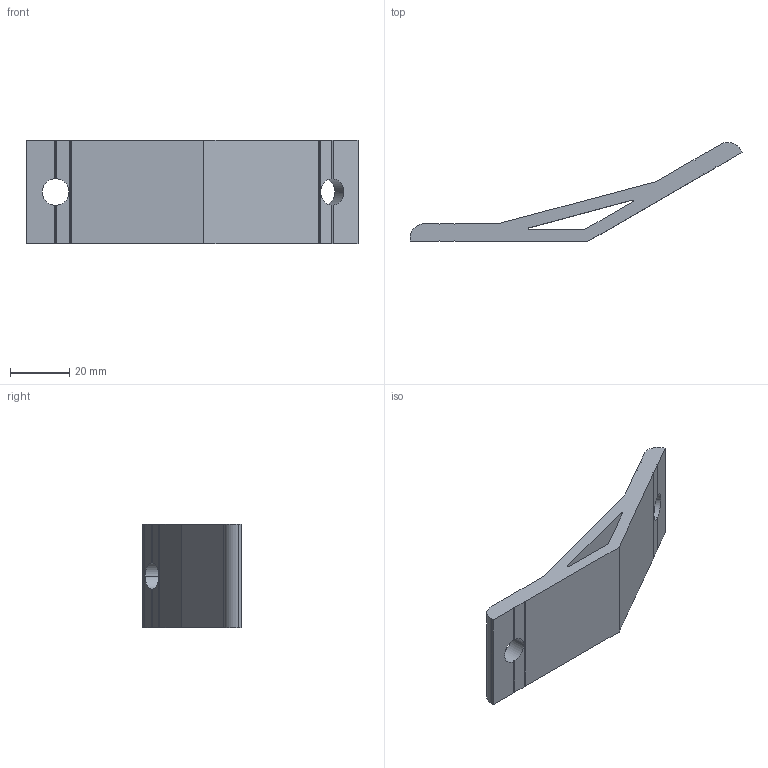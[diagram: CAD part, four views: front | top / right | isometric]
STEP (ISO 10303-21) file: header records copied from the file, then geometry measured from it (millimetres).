
FILE_DESCRIPTION (( 'STEP AP203' ), '1' );
FILE_NAME ('DALV15035-8.STEP', '2020-10-14T02:17:34', ( '' ), ( '' ), 'SwSTEP 2.0', 'SolidWorks 2017', '' );
FILE_SCHEMA (( 'CONFIG_CONTROL_DESIGN' ));
Length unit declared in the file: millimetre
Products named in the file (1): DALV15035-8
Bounding box: 111.96 x 33.37 x 35 mm (x, y, z)
Volume: 26958 mm3; surface area: 12840.9 mm2
Topology: 1 solids, 1 shells, 53 faces, 165 edges, 110 vertices
Faces by surface type: plane 44, cylinder 9
Entity records: 1914 total; most frequent: CARTESIAN_POINT 377, ORIENTED_EDGE 330, DIRECTION 283, EDGE_CURVE 165, LINE 123, VECTOR 123, VERTEX_POINT 110, AXIS2_PLACEMENT_3D 80
